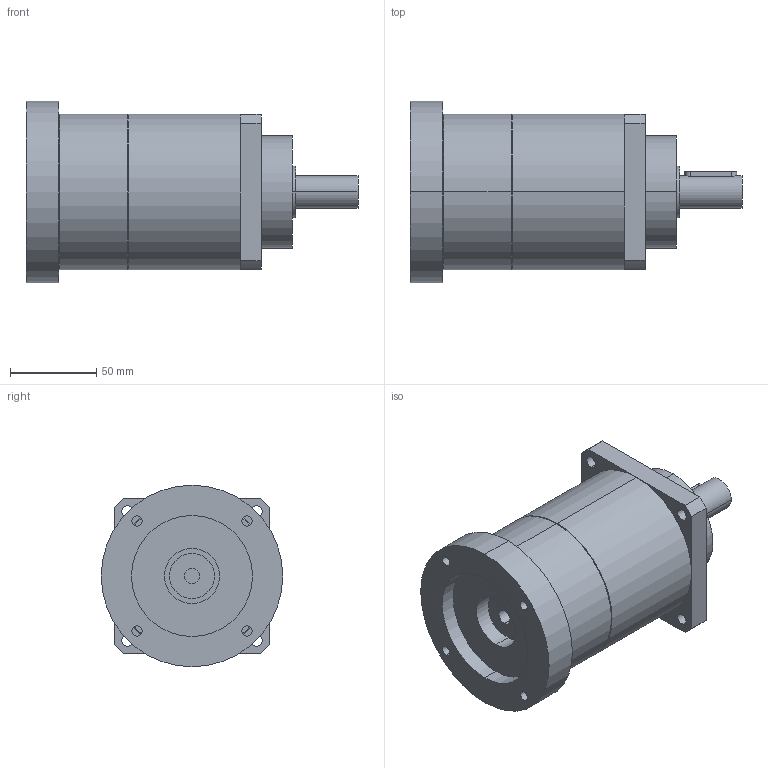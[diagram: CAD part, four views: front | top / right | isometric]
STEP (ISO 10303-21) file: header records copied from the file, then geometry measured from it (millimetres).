
FILE_DESCRIPTION(('CoCreate Modeling STEP Export'),'2;1');
FILE_NAME('GPT90_ig-9-12-16-20-25-28-35-40-50-70-100_19_B5T_9_P14.stp','2015-02-04T11:33:42',(''),(''),'CoCreate Modeling STEP processor for AP214 (Solid Model)','CoCreate Modeling 16.00C 25-Feb-2009 (C) Parametric Technology GmbH','');
FILE_SCHEMA(('AUTOMOTIVE_DESIGN { 1 0 10303 214 1 1 1 1 }'));
Length unit declared in the file: millimetre
Products named in the file (2): GPT90_ig-9-12-16-20-25-28-35-40-50-70-100_19_B5T_9_P14
Assembly tree (1 placements, depth 2):
  GPT90_ig-9-12-16-20-25-28-35-40-50-70-100_19_B5T_9_P14
    GPT90_ig-9-12-16-20-25-28-35-40-50-70-100_19_B5T_9_P14
Bounding box: 192 x 105 x 105 mm (x, y, z)
Volume: 953029.2 mm3; surface area: 73976.4 mm2
Topology: 1 solids, 1 shells, 75 faces, 205 edges, 138 vertices
Faces by surface type: cylinder 44, plane 27, cone 4
Entity records: 2477 total; most frequent: CARTESIAN_POINT 717, ORIENTED_EDGE 410, DIRECTION 294, EDGE_CURVE 205, VERTEX_POINT 138, AXIS2_PLACEMENT_3D 112, EDGE_LOOP 97, FACE_OUTER_BOUND 75
